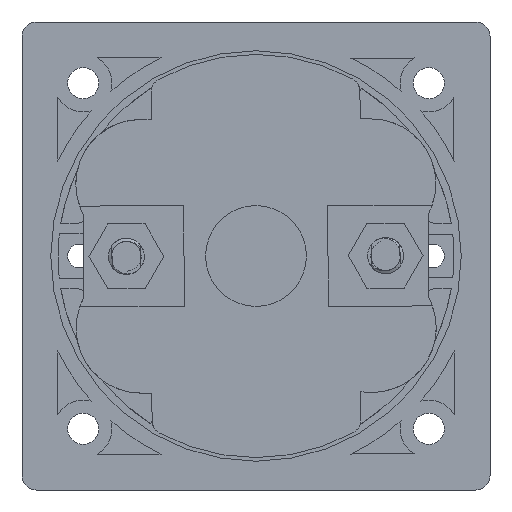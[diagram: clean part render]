
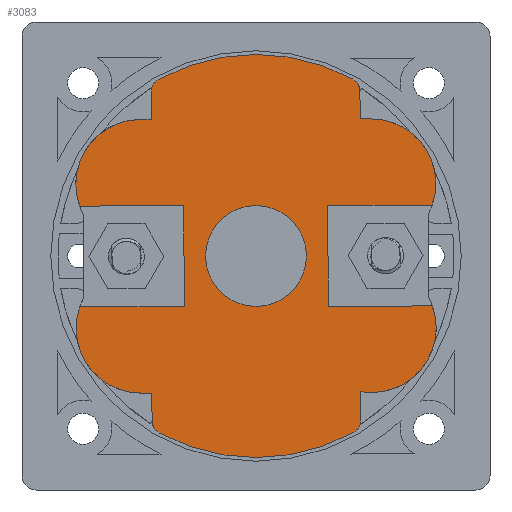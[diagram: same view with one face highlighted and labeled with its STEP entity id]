
A CAD part, front view. The second image highlights one B-rep face of the part: STEP entity #3083.
In plain terms, the highlighted planar face has unit normal (0, -1, 0).
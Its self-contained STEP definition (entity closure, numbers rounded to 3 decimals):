
#586=LINE('',#49168,#1705);
#591=LINE('',#49179,#1710);
#593=LINE('',#49183,#1712);
#597=LINE('',#49195,#1716);
#602=LINE('',#49206,#1721);
#604=LINE('',#49210,#1723);
#609=LINE('',#49245,#1728);
#625=LINE('',#49281,#1744);
#643=LINE('',#49333,#1762);
#645=LINE('',#49347,#1764);
#651=LINE('',#49366,#1770);
#666=LINE('',#49396,#1785);
#684=LINE('',#49448,#1803);
#687=LINE('',#49454,#1806);
#1705=VECTOR('',#17249,1.);
#1710=VECTOR('',#17256,1.);
#1712=VECTOR('',#17260,1.);
#1716=VECTOR('',#17272,1.);
#1721=VECTOR('',#17279,1.);
#1723=VECTOR('',#17283,1.);
#1728=VECTOR('',#17296,1.);
#1744=VECTOR('',#17320,1.);
#1762=VECTOR('',#17362,1.);
#1764=VECTOR('',#17366,1.);
#1770=VECTOR('',#17386,1.);
#1785=VECTOR('',#17403,1.);
#1803=VECTOR('',#17445,1.);
#1806=VECTOR('',#17450,1.);
#2703=FACE_BOUND('',#5162,.T.);
#2704=FACE_BOUND('',#5163,.T.);
#3083=ADVANCED_FACE('',(#2703,#2704),#3827,.F.);
#3827=PLANE('',#15722);
#5162=EDGE_LOOP('',(#7451,#7452,#7453,#7454,#7455,#7456,#7457,#7458,#7459,
#7460,#7461,#7462,#7463,#7464,#7465,#7466,#7467,#7468,#7469,#7470,#7471,
#7472,#7473,#7474,#7475));
#5163=EDGE_LOOP('',(#7476));
#6019=CIRCLE('',#15663,7.);
#6025=CIRCLE('',#15679,8.96);
#6028=CIRCLE('',#15684,2.);
#6030=CIRCLE('',#15687,28.);
#6033=CIRCLE('',#15691,2.);
#6034=CIRCLE('',#15695,9.);
#6036=CIRCLE('',#15698,9.);
#6040=CIRCLE('',#15705,2.);
#6042=CIRCLE('',#15708,28.);
#6045=CIRCLE('',#15712,2.);
#6046=CIRCLE('',#15716,9.);
#6048=CIRCLE('',#15719,9.);
#7451=ORIENTED_EDGE('',*,*,#13151,.F.);
#7452=ORIENTED_EDGE('',*,*,#13224,.T.);
#7453=ORIENTED_EDGE('',*,*,#13223,.T.);
#7454=ORIENTED_EDGE('',*,*,#13219,.T.);
#7455=ORIENTED_EDGE('',*,*,#13204,.T.);
#7456=ORIENTED_EDGE('',*,*,#13200,.T.);
#7457=ORIENTED_EDGE('',*,*,#13197,.T.);
#7458=ORIENTED_EDGE('',*,*,#13193,.T.);
#7459=ORIENTED_EDGE('',*,*,#13178,.T.);
#7460=ORIENTED_EDGE('',*,*,#13175,.T.);
#7461=ORIENTED_EDGE('',*,*,#13281,.T.);
#7462=ORIENTED_EDGE('',*,*,#13162,.F.);
#7463=ORIENTED_EDGE('',*,*,#13157,.F.);
#7464=ORIENTED_EDGE('',*,*,#13164,.F.);
#7465=ORIENTED_EDGE('',*,*,#13278,.T.);
#7466=ORIENTED_EDGE('',*,*,#13277,.T.);
#7467=ORIENTED_EDGE('',*,*,#13274,.T.);
#7468=ORIENTED_EDGE('',*,*,#13259,.T.);
#7469=ORIENTED_EDGE('',*,*,#13255,.T.);
#7470=ORIENTED_EDGE('',*,*,#13252,.T.);
#7471=ORIENTED_EDGE('',*,*,#13248,.T.);
#7472=ORIENTED_EDGE('',*,*,#13233,.T.);
#7473=ORIENTED_EDGE('',*,*,#13227,.T.);
#7474=ORIENTED_EDGE('',*,*,#13149,.F.);
#7475=ORIENTED_EDGE('',*,*,#13144,.F.);
#7476=ORIENTED_EDGE('',*,*,#13143,.F.);
#11473=VERTEX_POINT('',#49166);
#11474=VERTEX_POINT('',#49169);
#11475=VERTEX_POINT('',#49170);
#11479=VERTEX_POINT('',#49180);
#11480=VERTEX_POINT('',#49184);
#11484=VERTEX_POINT('',#49196);
#11485=VERTEX_POINT('',#49197);
#11489=VERTEX_POINT('',#49207);
#11490=VERTEX_POINT('',#49211);
#11494=VERTEX_POINT('',#49226);
#11499=VERTEX_POINT('',#49244);
#11500=VERTEX_POINT('',#49248);
#11502=VERTEX_POINT('',#49254);
#11516=VERTEX_POINT('',#49284);
#11519=VERTEX_POINT('',#49292);
#11521=VERTEX_POINT('',#49298);
#11524=VERTEX_POINT('',#49306);
#11538=VERTEX_POINT('',#49339);
#11542=VERTEX_POINT('',#49355);
#11545=VERTEX_POINT('',#49363);
#11547=VERTEX_POINT('',#49369);
#11561=VERTEX_POINT('',#49399);
#11564=VERTEX_POINT('',#49407);
#11566=VERTEX_POINT('',#49413);
#11569=VERTEX_POINT('',#49421);
#11583=VERTEX_POINT('',#49451);
#13143=EDGE_CURVE('',#11473,#11473,#6019,.T.);
#13144=EDGE_CURVE('',#11474,#11475,#586,.T.);
#13149=EDGE_CURVE('',#11475,#11479,#591,.T.);
#13151=EDGE_CURVE('',#11480,#11474,#593,.T.);
#13157=EDGE_CURVE('',#11484,#11485,#597,.T.);
#13162=EDGE_CURVE('',#11485,#11489,#602,.T.);
#13164=EDGE_CURVE('',#11490,#11484,#604,.T.);
#13175=EDGE_CURVE('',#11494,#11499,#609,.T.);
#13178=EDGE_CURVE('',#11500,#11494,#6025,.T.);
#13193=EDGE_CURVE('',#11502,#11500,#625,.T.);
#13197=EDGE_CURVE('',#11516,#11502,#6028,.T.);
#13200=EDGE_CURVE('',#11519,#11516,#6030,.T.);
#13204=EDGE_CURVE('',#11521,#11519,#6033,.T.);
#13219=EDGE_CURVE('',#11524,#11521,#643,.T.);
#13223=EDGE_CURVE('',#11538,#11524,#645,.T.);
#13224=EDGE_CURVE('',#11480,#11538,#6034,.T.);
#13227=EDGE_CURVE('',#11542,#11479,#6036,.T.);
#13233=EDGE_CURVE('',#11545,#11542,#651,.T.);
#13248=EDGE_CURVE('',#11547,#11545,#666,.T.);
#13252=EDGE_CURVE('',#11561,#11547,#6040,.T.);
#13255=EDGE_CURVE('',#11564,#11561,#6042,.T.);
#13259=EDGE_CURVE('',#11566,#11564,#6045,.T.);
#13274=EDGE_CURVE('',#11569,#11566,#684,.T.);
#13277=EDGE_CURVE('',#11583,#11569,#687,.T.);
#13278=EDGE_CURVE('',#11490,#11583,#6046,.T.);
#13281=EDGE_CURVE('',#11499,#11489,#6048,.T.);
#15663=AXIS2_PLACEMENT_3D('',#49165,#17245,#17246);
#15679=AXIS2_PLACEMENT_3D('',#49251,#17302,#17303);
#15684=AXIS2_PLACEMENT_3D('',#49289,#17328,#17329);
#15687=AXIS2_PLACEMENT_3D('',#49295,#17335,#17336);
#15691=AXIS2_PLACEMENT_3D('',#49303,#17344,#17345);
#15695=AXIS2_PLACEMENT_3D('',#49349,#17369,#17370);
#15698=AXIS2_PLACEMENT_3D('',#49354,#17376,#17377);
#15705=AXIS2_PLACEMENT_3D('',#49404,#17411,#17412);
#15708=AXIS2_PLACEMENT_3D('',#49410,#17418,#17419);
#15712=AXIS2_PLACEMENT_3D('',#49418,#17427,#17428);
#15716=AXIS2_PLACEMENT_3D('',#49456,#17453,#17454);
#15719=AXIS2_PLACEMENT_3D('',#49461,#17460,#17461);
#15722=AXIS2_PLACEMENT_3D('',#49466,#17467,#17468);
#17245=DIRECTION('',(0.,-1.,0.));
#17246=DIRECTION('',(-1.,0.,-0.003));
#17249=DIRECTION('',(-0.003,0.,1.));
#17256=DIRECTION('',(-1.,0.,-0.003));
#17260=DIRECTION('',(1.,0.,0.003));
#17272=DIRECTION('',(0.003,0.,-1.));
#17279=DIRECTION('',(1.,0.,0.003));
#17283=DIRECTION('',(-1.,0.,-0.003));
#17296=DIRECTION('',(1.,0.,0.003));
#17302=DIRECTION('',(0.,-1.,0.));
#17303=DIRECTION('',(0.,0.,-1.));
#17320=DIRECTION('',(-0.003,0.,1.));
#17328=DIRECTION('',(0.,-1.,0.));
#17329=DIRECTION('',(1.,0.,0.003));
#17335=DIRECTION('',(0.,-1.,0.));
#17336=DIRECTION('',(1.,0.,0.003));
#17344=DIRECTION('',(0.,-1.,0.));
#17345=DIRECTION('',(1.,0.,0.003));
#17362=DIRECTION('',(0.003,0.,-1.));
#17366=DIRECTION('',(1.,0.,0.003));
#17369=DIRECTION('',(0.,-1.,0.));
#17370=DIRECTION('',(-0.89,0.,0.456));
#17376=DIRECTION('',(0.,-1.,0.));
#17377=DIRECTION('',(-1.,0.,-0.003));
#17386=DIRECTION('',(-1.,0.,-0.003));
#17403=DIRECTION('',(0.003,0.,-1.));
#17411=DIRECTION('',(0.,-1.,0.));
#17412=DIRECTION('',(1.,0.,0.003));
#17418=DIRECTION('',(0.,-1.,0.));
#17419=DIRECTION('',(1.,0.,0.003));
#17427=DIRECTION('',(0.,-1.,0.));
#17428=DIRECTION('',(1.,0.,0.003));
#17445=DIRECTION('',(-0.003,0.,1.));
#17450=DIRECTION('',(-1.,0.,-0.003));
#17453=DIRECTION('',(0.,-1.,0.));
#17454=DIRECTION('',(1.,0.,0.003));
#17460=DIRECTION('',(0.,-1.,0.));
#17461=DIRECTION('',(0.,0.,-1.));
#17467=DIRECTION('',(0.,1.,0.));
#17468=DIRECTION('',(0.,0.,1.));
#49165=CARTESIAN_POINT('',(0.,-67.6,0.));
#49166=CARTESIAN_POINT('',(-7.,-67.6,-0.018));
#49168=CARTESIAN_POINT('',(-9.982,-67.6,-7.026));
#49169=CARTESIAN_POINT('',(-9.982,-67.6,-7.026));
#49170=CARTESIAN_POINT('',(-10.018,-67.6,6.974));
#49179=CARTESIAN_POINT('',(-10.018,-67.6,6.974));
#49180=CARTESIAN_POINT('',(-24.503,-67.6,6.937));
#49183=CARTESIAN_POINT('',(-34.164,-67.6,-7.088));
#49184=CARTESIAN_POINT('',(-24.468,-67.6,-7.063));
#49195=CARTESIAN_POINT('',(9.982,-67.6,7.026));
#49196=CARTESIAN_POINT('',(9.982,-67.6,7.026));
#49197=CARTESIAN_POINT('',(10.018,-67.6,-6.974));
#49206=CARTESIAN_POINT('',(10.018,-67.6,-6.974));
#49207=CARTESIAN_POINT('',(24.503,-67.6,-6.937));
#49210=CARTESIAN_POINT('',(34.164,-67.6,7.088));
#49211=CARTESIAN_POINT('',(24.467,-67.6,7.063));
#49226=CARTESIAN_POINT('',(15.978,-67.6,-18.959));
#49244=CARTESIAN_POINT('',(16.119,-67.6,-18.958));
#49245=CARTESIAN_POINT('',(23.752,-67.6,-18.938));
#49248=CARTESIAN_POINT('',(14.548,-67.6,-18.837));
#49251=CARTESIAN_POINT('',(16.02,-67.6,-9.999));
#49254=CARTESIAN_POINT('',(14.558,-67.6,-22.761));
#49281=CARTESIAN_POINT('',(14.558,-67.6,-22.761));
#49284=CARTESIAN_POINT('',(13.525,-67.6,-24.517));
#49289=CARTESIAN_POINT('',(12.558,-67.6,-22.766));
#49292=CARTESIAN_POINT('',(-13.398,-67.6,-24.586));
#49295=CARTESIAN_POINT('',(0.,-67.6,0.));
#49298=CARTESIAN_POINT('',(-14.441,-67.6,-22.835));
#49303=CARTESIAN_POINT('',(-12.441,-67.6,-22.83));
#49306=CARTESIAN_POINT('',(-14.451,-67.6,-19.037));
#49333=CARTESIAN_POINT('',(-14.451,-67.6,-19.037));
#49339=CARTESIAN_POINT('',(-15.951,-67.6,-19.041));
#49347=CARTESIAN_POINT('',(23.753,-67.6,-18.934));
#49349=CARTESIAN_POINT('',(-15.974,-67.6,-10.041));
#49354=CARTESIAN_POINT('',(-16.026,-67.6,9.959));
#49355=CARTESIAN_POINT('',(-16.049,-67.6,18.959));
#49363=CARTESIAN_POINT('',(-14.549,-67.6,18.963));
#49366=CARTESIAN_POINT('',(-14.549,-67.6,18.963));
#49369=CARTESIAN_POINT('',(-14.558,-67.6,22.761));
#49396=CARTESIAN_POINT('',(-14.558,-67.6,22.761));
#49399=CARTESIAN_POINT('',(-13.525,-67.6,24.517));
#49404=CARTESIAN_POINT('',(-12.558,-67.6,22.766));
#49407=CARTESIAN_POINT('',(13.398,-67.6,24.586));
#49410=CARTESIAN_POINT('',(0.,-67.6,0.));
#49413=CARTESIAN_POINT('',(14.441,-67.6,22.835));
#49418=CARTESIAN_POINT('',(12.441,-67.6,22.83));
#49421=CARTESIAN_POINT('',(14.451,-67.6,19.037));
#49448=CARTESIAN_POINT('',(14.451,-67.6,19.037));
#49451=CARTESIAN_POINT('',(15.951,-67.6,19.041));
#49454=CARTESIAN_POINT('',(15.951,-67.6,19.041));
#49456=CARTESIAN_POINT('',(15.974,-67.6,10.041));
#49461=CARTESIAN_POINT('',(16.026,-67.6,-9.959));
#49466=CARTESIAN_POINT('',(23.741,-67.6,-14.593));
